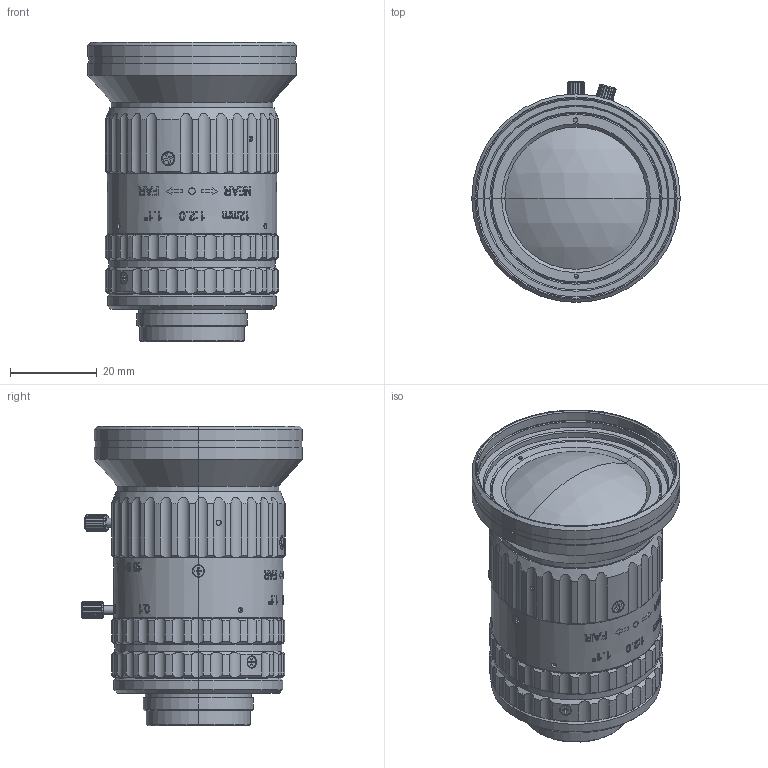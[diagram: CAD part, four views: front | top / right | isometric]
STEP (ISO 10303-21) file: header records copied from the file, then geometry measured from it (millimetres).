
FILE_DESCRIPTION(/* description */ (''),/* implementation_level */ '2;1');
FILE_NAME(/* name */ 'C:\Users\Jobserver\Workspace\Designs\Storage\2020\03\101782.stp',/* time_stamp */ '2020-03-24T08:58:08+01:00',/* author */ (''),/* organization */ (''),/* preprocessor_version */ 'ST-DEVELOPER v16.13',/* originating_system */ 'Autodesk Inventor 2018',/* authorisation */ '');
FILE_SCHEMA (('CONFIG_CONTROL_DESIGN'));
Length unit declared in the file: millimetre
Products named in the file (1): 101782
Bounding box: 48 x 50.91 x 68.94 mm (x, y, z)
Volume: 74731.3 mm3; surface area: 18870.1 mm2
Topology: 2 solids, 2 shells, 1304 faces, 3649 edges, 2435 vertices
Faces by surface type: plane 506, cylinder 386, bspline 259, cone 149, sphere 4
Full cylindrical faces by diameter (mm): 1 x2, 1.2 x4, 2 x2, 2.8 x1, 3.2 x1
Entity records: 85629 total; most frequent: CARTESIAN_POINT 52311, ORIENTED_EDGE 7232, DIRECTION 5901, EDGE_CURVE 3616, VERTEX_POINT 2421, AXIS2_PLACEMENT_3D 2143, LINE 1615, VECTOR 1615
